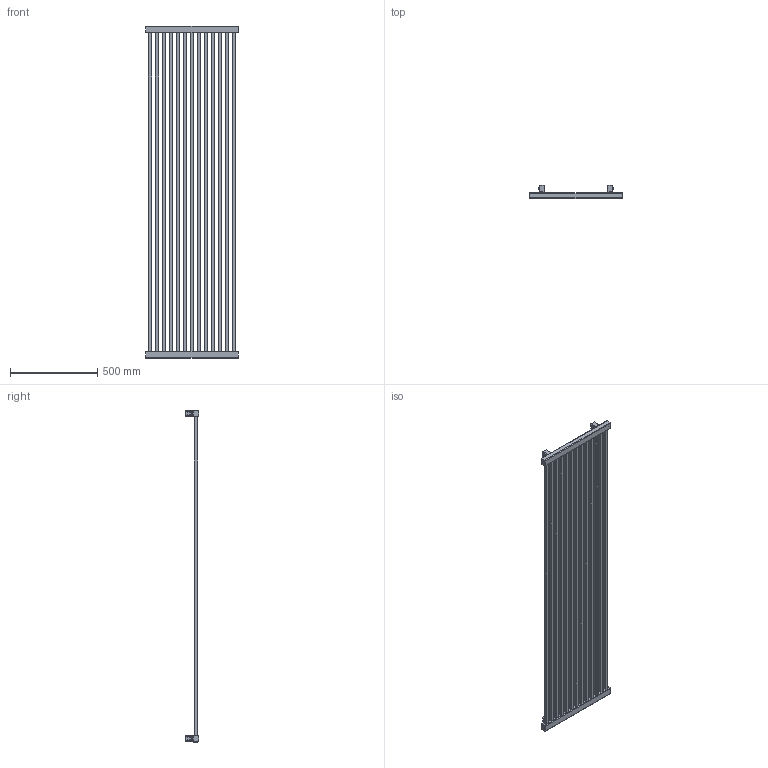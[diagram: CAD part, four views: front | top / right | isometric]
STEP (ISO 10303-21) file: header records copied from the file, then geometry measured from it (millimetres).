
FILE_DESCRIPTION((''),'2;1');
FILE_NAME('Z:\R\G\P\RGPH04 - Grzejnik Intra\Work\Inventor\Marketing\STEP\IN 19-53-ZX.stp','2012-07-25T15:43:22',('PioRo'),(''),'Autodesk Inventor 2012','Autodesk Inventor 2012','');
FILE_SCHEMA(('CONFIG_CONTROL_DESIGN'));
Length unit declared in the file: millimetre
Products named in the file (1): Część4
Bounding box: 530 x 74.5 x 1900 mm (x, y, z)
Volume: 10793387.8 mm3; surface area: 1977597.3 mm2
Topology: 11 solids, 11 shells, 362 faces, 877 edges, 550 vertices
Faces by surface type: cylinder 147, plane 143, bspline 48, torus 20, cone 4
Full cylindrical faces by diameter (mm): 10 x4, 18.631 x3
Entity records: 12160 total; most frequent: CARTESIAN_POINT 3377, ORIENTED_EDGE 1724, DIRECTION 1714, EDGE_CURVE 862, AXIS2_PLACEMENT_3D 633, VERTEX_POINT 550, VECTOR 448, LINE 448
